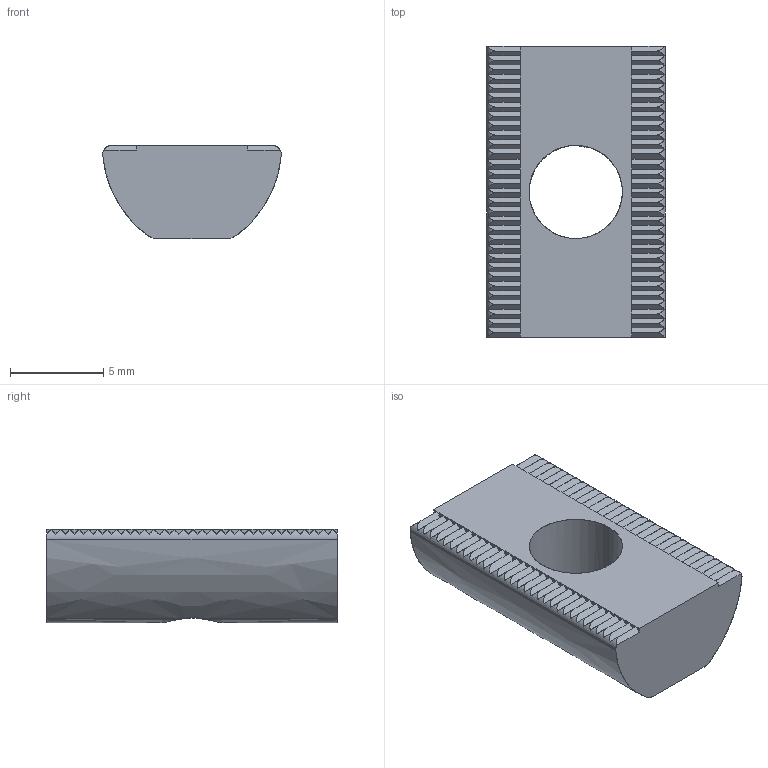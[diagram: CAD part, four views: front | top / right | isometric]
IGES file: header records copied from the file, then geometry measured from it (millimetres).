
Start section: SolidWorks IGES file using analytic representation for surfaces
Global section: file name: C:\Users\admin\Desktop\IGES\J3M6FDE.igs; native system: SolidWorks 2014; preprocessor: SolidWorks 2014; author: admin_pc; date: 170524.165507; units: millimetre
Bounding box: 9.58 x 15.6 x 5 mm (x, y, z)
Surface area: 533.3 mm2 (no closed solid volume)
Topology: 0 solids, 0 shells, 203 faces, 1554 edges, 1554 vertices
Faces by surface type: bspline 193, revolution 10
